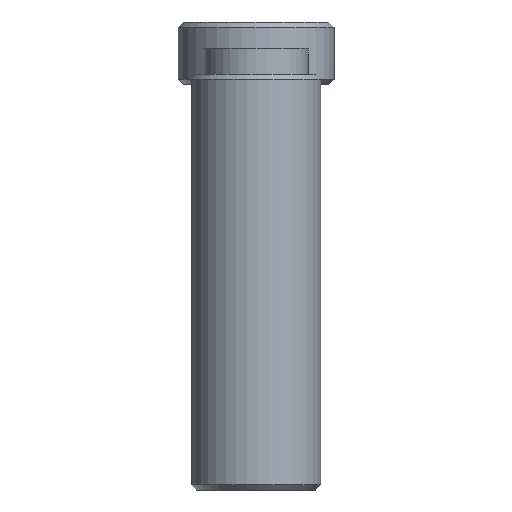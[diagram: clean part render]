
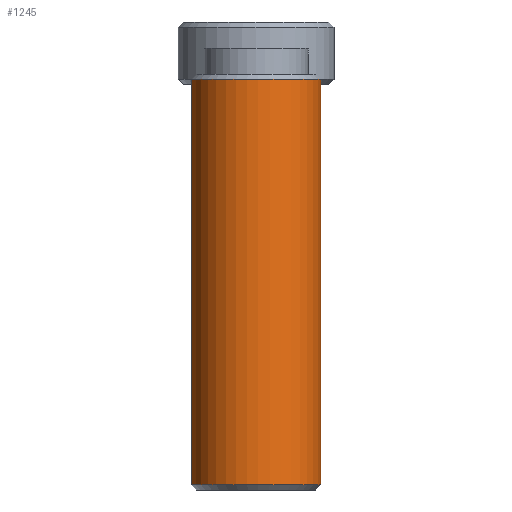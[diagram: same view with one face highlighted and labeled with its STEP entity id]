
A CAD part, front view. The second image highlights one B-rep face of the part: STEP entity #1245.
In plain terms, the highlighted cylindrical face has radius 12.5 mm (diameter 25 mm), a full revolution.
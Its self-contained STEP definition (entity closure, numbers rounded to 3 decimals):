
#127=CYLINDRICAL_SURFACE('',#1442,12.5);
#167=FACE_OUTER_BOUND('',#233,.T.);
#233=EDGE_LOOP('',(#924,#925,#926,#927,#928,#929));
#313=LINE('',#1985,#402);
#402=VECTOR('',#1642,12.5);
#479=CIRCLE('',#1439,12.5);
#480=CIRCLE('',#1440,12.5);
#482=CIRCLE('',#1443,12.5);
#483=CIRCLE('',#1444,12.5);
#552=VERTEX_POINT('',#1973);
#553=VERTEX_POINT('',#1974);
#555=VERTEX_POINT('',#1981);
#556=VERTEX_POINT('',#1982);
#694=EDGE_CURVE('',#552,#553,#479,.T.);
#695=EDGE_CURVE('',#553,#552,#480,.T.);
#698=EDGE_CURVE('',#555,#556,#482,.T.);
#699=EDGE_CURVE('',#556,#555,#483,.T.);
#700=EDGE_CURVE('',#556,#553,#313,.T.);
#924=ORIENTED_EDGE('',*,*,#698,.F.);
#925=ORIENTED_EDGE('',*,*,#699,.F.);
#926=ORIENTED_EDGE('',*,*,#700,.T.);
#927=ORIENTED_EDGE('',*,*,#694,.F.);
#928=ORIENTED_EDGE('',*,*,#695,.F.);
#929=ORIENTED_EDGE('',*,*,#700,.F.);
#1245=ADVANCED_FACE('',(#167),#127,.T.);
#1439=AXIS2_PLACEMENT_3D('',#1975,#1629,#1630);
#1440=AXIS2_PLACEMENT_3D('',#1976,#1631,#1632);
#1442=AXIS2_PLACEMENT_3D('',#1980,#1636,#1637);
#1443=AXIS2_PLACEMENT_3D('',#1983,#1638,#1639);
#1444=AXIS2_PLACEMENT_3D('',#1984,#1640,#1641);
#1629=DIRECTION('center_axis',(0.,-1.,0.));
#1630=DIRECTION('ref_axis',(1.,0.,0.));
#1631=DIRECTION('center_axis',(0.,-1.,0.));
#1632=DIRECTION('ref_axis',(1.,0.,0.));
#1636=DIRECTION('center_axis',(0.,1.,0.));
#1637=DIRECTION('ref_axis',(-1.,0.,0.));
#1638=DIRECTION('center_axis',(0.,1.,0.));
#1639=DIRECTION('ref_axis',(1.,0.,0.));
#1640=DIRECTION('center_axis',(0.,1.,0.));
#1641=DIRECTION('ref_axis',(1.,0.,0.));
#1642=DIRECTION('',(0.,-1.,0.));
#1973=CARTESIAN_POINT('',(-12.5,-39.,0.));
#1974=CARTESIAN_POINT('',(12.5,-39.,0.));
#1975=CARTESIAN_POINT('Origin',(0.,-39.,0.));
#1976=CARTESIAN_POINT('Origin',(0.,-39.,0.));
#1980=CARTESIAN_POINT('Origin',(0.,0.,0.));
#1981=CARTESIAN_POINT('',(-12.5,39.,0.));
#1982=CARTESIAN_POINT('',(12.5,39.,0.));
#1983=CARTESIAN_POINT('Origin',(0.,39.,0.));
#1984=CARTESIAN_POINT('Origin',(0.,39.,0.));
#1985=CARTESIAN_POINT('',(12.5,0.,0.));
